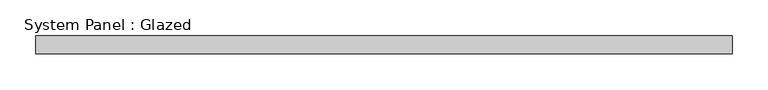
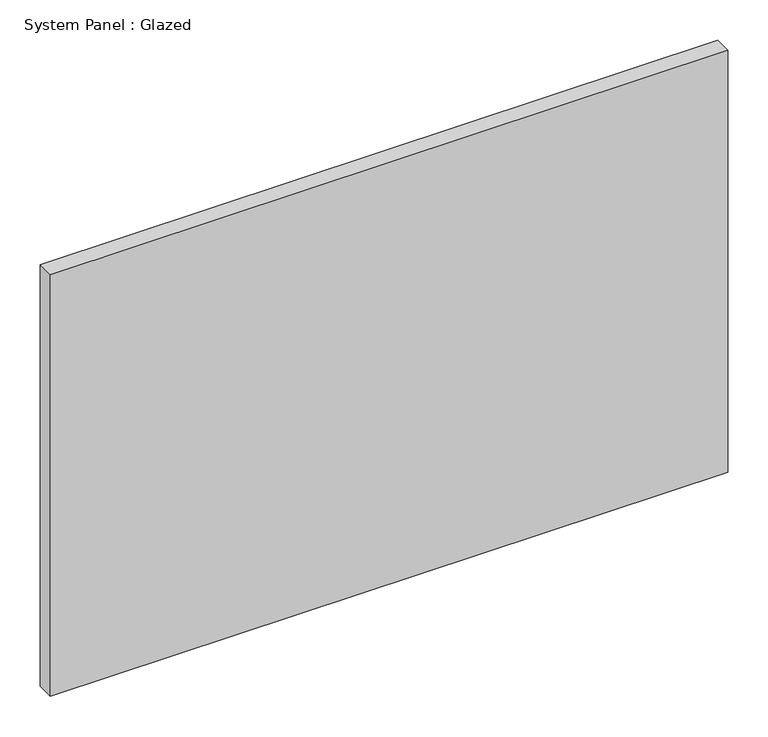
"""IFC4 building model written with IfcOpenShell, lengths in millimetres: plate geometry, System Panel : Glazed."""

from ifc_helpers import new_model, si_unit, origin, origin_with_axes, place, context, project, spatial, polyline, outline, extrude, source, transform, mapped, element, save


def system_panel_glazed_0f83ec5b(model_context):
    return source(origin(), model_context, "Body", "SweptSolid", [
        extrude(outline(polyline([(485.7510959, 24.5), (-485.7510959, 24.5), (-485.7510959, 49.5), (485.7510959, 49.5), (485.7510959, 24.5)])), origin_with_axes(), (0.0, 0.0, 1.0), 639.6468952),
    ])


if __name__ == "__main__":
    model = new_model("IFC4")
    model_context = context("Model", 3, world=origin())
    ifc_project = project(units=[si_unit("LENGTHUNIT", "METRE", prefix="MILLI")], contexts=[model_context])
    site = spatial("IfcSite", under=ifc_project)
    building = spatial("IfcBuilding", under=site)
    placement = place(None, origin())
    system_panel_glazed_shape = system_panel_glazed_0f83ec5b(model_context)
    element("IfcPlate", 1, ObjectType="System Panel : Glazed", at=placement, inside=building, context=model_context, shape_type="MappedRepresentation", body=[
        mapped(system_panel_glazed_shape, transform((0.0, 0.0, 0.0), x_axis=(1.0, 0.0, 0.0), y_axis=(0.0, 1.0, 0.0), z_axis=(0.0, 0.0, 1.0))),
    ])
    save(model, "model.ifc")
